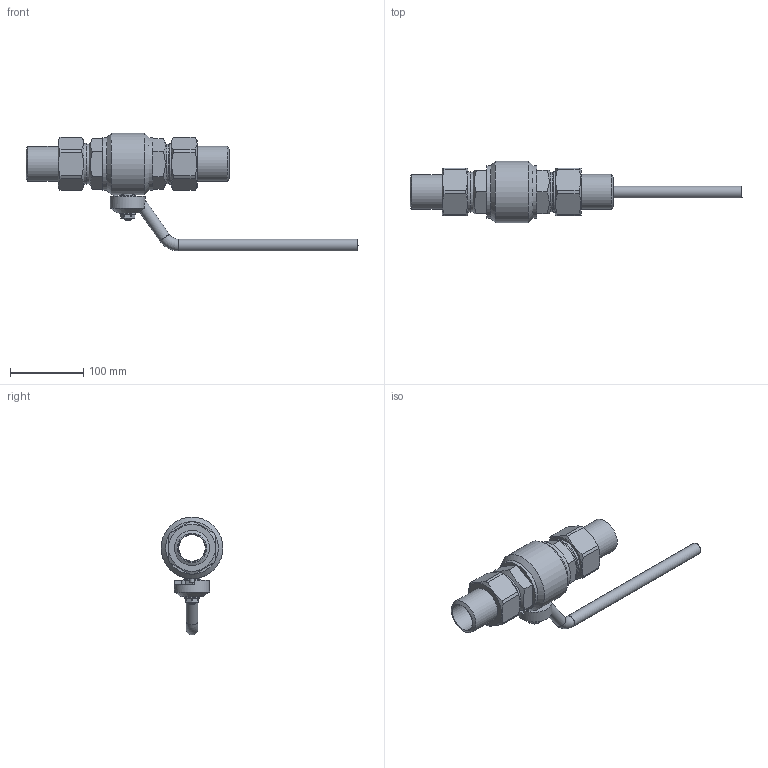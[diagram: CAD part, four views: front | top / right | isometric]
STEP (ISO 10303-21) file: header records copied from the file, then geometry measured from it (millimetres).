
FILE_DESCRIPTION(('STEP AP203'), '1');
FILE_NAME('ZARD 040.040.30.P.stp', '2013-12-06T07:13:26', ('User'), ('Computer'), 'ASCON STEP Converter 1.3', 'Kompas 3D', '');
FILE_SCHEMA(('CONFIG_CONTROL_DESIGN','SUPPORT_RESOURCE_SCHEMA'));
Length unit declared in the file: millimetre
Products named in the file (1): 136
Bounding box: 454.28 x 84.5 x 161.25 mm (x, y, z)
Volume: 656986.7 mm3; surface area: 147673.2 mm2
Topology: 1 solids, 2 shells, 221 faces, 521 edges, 328 vertices
Faces by surface type: plane 106, cylinder 71, cone 34, torus 8, sphere 2
Full cylindrical faces by diameter (mm): 6 x1, 10 x2, 16 x3, 16.1 x1, 21.8 x1, 22 x2, 24.3 x1, 24.5 x1, 36 x2, 38 x2, 46 x2, 48 x3, 53.5 x2, 53.8 x2, 54.38 x2, 56 x2, 58.4 x1, 72 x2, 84.5 x1
Entity records: 9079 total; most frequent: CARTESIAN_POINT 3881, DIRECTION 1089, ORIENTED_EDGE 1042, EDGE_CURVE 521, AXIS2_PLACEMENT_3D 423, VERTEX_POINT 328, EDGE_LOOP 251, LINE 243
